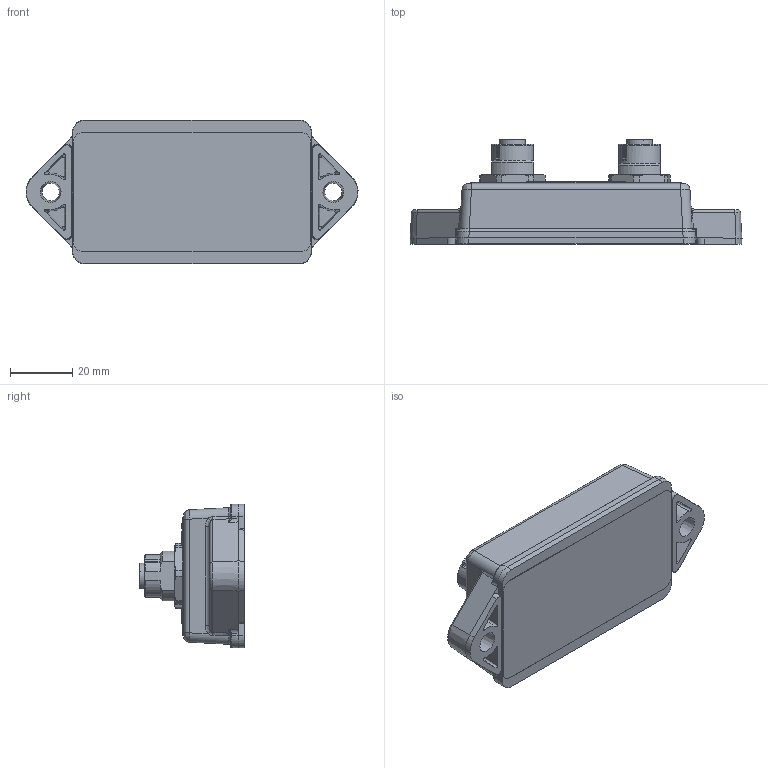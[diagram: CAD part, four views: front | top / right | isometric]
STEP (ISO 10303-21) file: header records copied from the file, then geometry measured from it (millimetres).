
FILE_DESCRIPTION(/* description */ (''),/* implementation_level */ '2;1');
FILE_NAME(/* name */ 'S:\Projects\MMS-CAN-ENET, AX140901, Proj_14010\UNIT ASSEMBLY\RELEASED\rev 2\AX140900-R2.stp',/* time_stamp */ '2016-08-29T11:14:47-04:00',/* author */ ('tfisher'),/* organization */ (''),/* preprocessor_version */ 'ST-DEVELOPER v15.2',/* originating_system */ 'Autodesk Inventor 2014',/* authorisation */ '');
FILE_SCHEMA (('AUTOMOTIVE_DESIGN { 1 0 10303 214 3 1 1 }'));
Products named in the file (1): FG-AX140900  for STEP
Bounding box: 106.32 x 33.51 x 46.04 mm (x, y, z)
Volume: 30925.3 mm3; surface area: 28562 mm2
Topology: 4 solids, 5 shells, 2501 faces, 6644 edges, 4373 vertices
Faces by surface type: plane 1680, bspline 414, cylinder 258, cone 90, torus 45, sphere 14
Full cylindrical faces by diameter (mm): 0.217 x2, 0.6 x8, 1 x21, 1.1 x5, 1.52 x1, 1.6 x5, 3.861 x3, 5.01 x3, 11.13 x2, 12.2 x1, 21.336 x2
Entity records: 85217 total; most frequent: CARTESIAN_POINT 23536, ORIENTED_EDGE 12962, DIRECTION 10655, EDGE_CURVE 6481, LINE 4613, VECTOR 4613, VERTEX_POINT 4322, AXIS2_PLACEMENT_3D 3021
